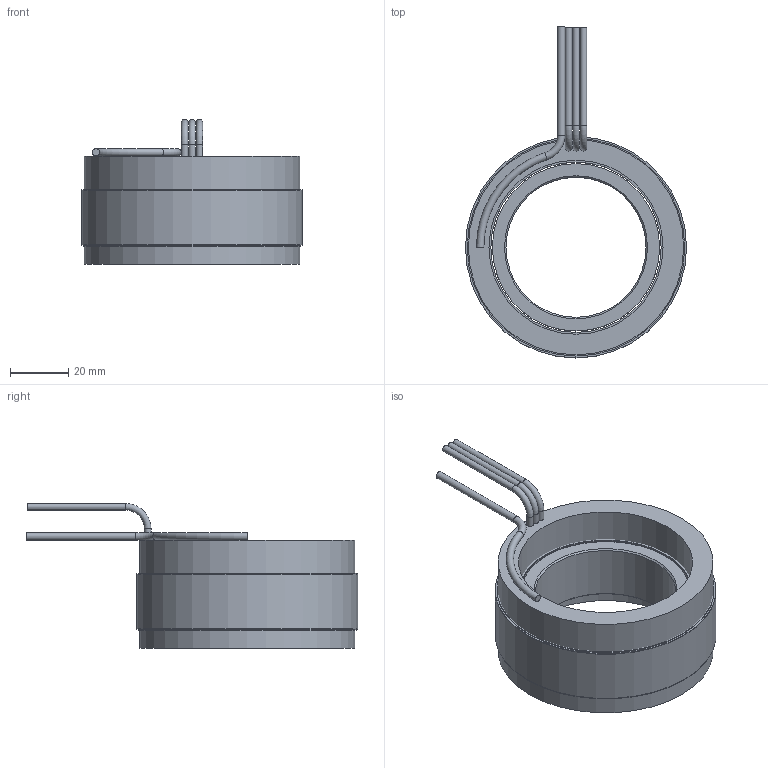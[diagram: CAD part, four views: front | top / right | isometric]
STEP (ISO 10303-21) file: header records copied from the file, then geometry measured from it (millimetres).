
FILE_DESCRIPTION (( 'STEP AP214' ), '1' );
FILE_NAME ('6100392-01.STEP', '2020-12-15T02:58:37', ( '' ), ( '' ), 'SwSTEP 2.0', 'SolidWorks 2016', '' );
FILE_SCHEMA (( 'AUTOMOTIVE_DESIGN' ));
Length unit declared in the file: inch
Products named in the file (10): 4450190-XX_4450190-01; 4400102-00; 4600566-00; 4250380-XX_4250380-01; 6100392-01; COMP4500559-XX(COIL)_COMP4500559-01(COIL); 4500559-XX_4500559-01; 4150179-XX_4150179-01
Assembly tree (10 placements, depth 4):
  6100392-01
    4500559-XX_4500559-01
      4450190-XX_4450190-01
        4450190-XX_4450190-01
        4400102-00
        4400102-00
        4600566-00  x2
      COMP4500559-XX(COIL)_COMP4500559-01(COIL)
    4250380-XX_4250380-01
      4150179-XX_4150179-01
Bounding box: 76.2 x 114.3 x 49.91 mm (x, y, z)
Volume: 108089.4 mm3; surface area: 54573.6 mm2
Topology: 8 solids, 8 shells, 47 faces, 74 edges, 46 vertices
Faces by surface type: cylinder 21, plane 19, torus 5, cone 2
Full cylindrical faces by diameter (mm): 2.286 x6, 2.54 x1, 48.26 x1, 57.658 x1, 58.674 x5, 59.944 x1, 74.168 x1, 74.93 x2, 76.2 x3
Entity records: 1305 total; most frequent: DIRECTION 202, CARTESIAN_POINT 143, AXIS2_PLACEMENT_3D 101, ORIENTED_EDGE 84, EDGE_LOOP 84, FACE_OUTER_BOUND 67, ADVANCED_FACE 43, CIRCLE 42
